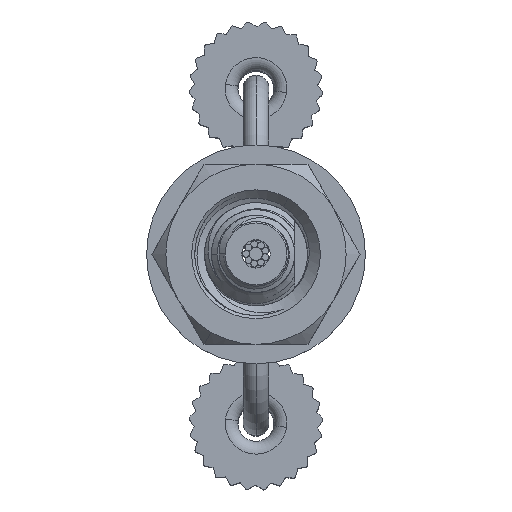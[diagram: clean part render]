
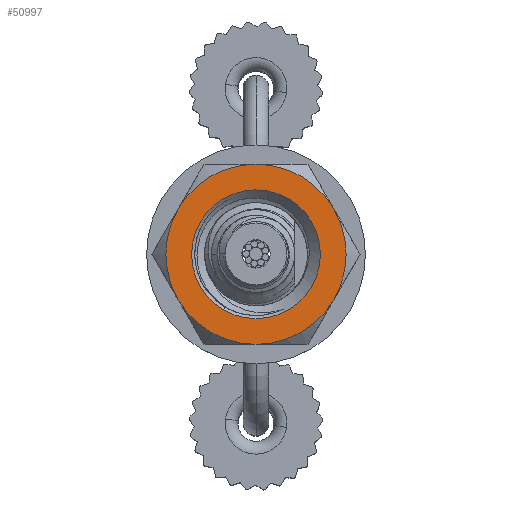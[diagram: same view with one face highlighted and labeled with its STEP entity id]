
A CAD part, top view. The second image highlights one B-rep face of the part: STEP entity #50997.
In plain terms, the highlighted planar face has unit normal (0, 0, 1).
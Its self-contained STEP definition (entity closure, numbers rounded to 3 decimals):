
#372 = DIRECTION ( 'NONE',  ( 0., 0., -1. ) ) ;
#554 = CARTESIAN_POINT ( 'NONE',  ( 0., 0., 2.4 ) ) ;
#575 = CIRCLE ( 'NONE', #17557, 3.5 ) ;
#1279 = DIRECTION ( 'NONE',  ( 1., 0., 0. ) ) ;
#1575 = CIRCLE ( 'NONE', #59531, 2.5 ) ;
#2208 = DIRECTION ( 'NONE',  ( 1., 0., 0. ) ) ;
#2902 = DIRECTION ( 'NONE',  ( 0., 0., 1. ) ) ;
#3381 = CARTESIAN_POINT ( 'NONE',  ( 0., 0., 2.4 ) ) ;
#3403 = CIRCLE ( 'NONE', #48913, 3.5 ) ;
#6492 = ORIENTED_EDGE ( 'NONE', *, *, #28085, .F. ) ;
#6590 = DIRECTION ( 'NONE',  ( 0., 0., -1. ) ) ;
#6638 = CARTESIAN_POINT ( 'NONE',  ( 0., -3.5, 2.4 ) ) ;
#7200 = CARTESIAN_POINT ( 'NONE',  ( 2.5, 0., 2.4 ) ) ;
#8023 = EDGE_LOOP ( 'NONE', ( #47020, #8667 ) ) ;
#8248 = EDGE_CURVE ( 'NONE', #31083, #47899, #65218, .T. ) ;
#8403 = EDGE_CURVE ( 'NONE', #35632, #59249, #1575, .T. ) ;
#8667 = ORIENTED_EDGE ( 'NONE', *, *, #17599, .T. ) ;
#9962 = AXIS2_PLACEMENT_3D ( 'NONE', #47373, #10671, #53399 ) ;
#10013 = DIRECTION ( 'NONE',  ( 0., 0., -1. ) ) ;
#10505 = DIRECTION ( 'NONE',  ( -1., 0., 0. ) ) ;
#10671 = DIRECTION ( 'NONE',  ( 0., 0., -1. ) ) ;
#11140 = AXIS2_PLACEMENT_3D ( 'NONE', #47771, #69427, #30660 ) ;
#11407 = EDGE_CURVE ( 'NONE', #47527, #31083, #575, .T. ) ;
#11778 = AXIS2_PLACEMENT_3D ( 'NONE', #53044, #20655, #22759 ) ;
#13561 = PLANE ( 'NONE',  #24113 ) ;
#17557 = AXIS2_PLACEMENT_3D ( 'NONE', #554, #48965, #10505 ) ;
#17599 = EDGE_CURVE ( 'NONE', #59249, #35632, #49756, .T. ) ;
#18208 = CARTESIAN_POINT ( 'NONE',  ( 0., 0., 2.4 ) ) ;
#18414 = EDGE_CURVE ( 'NONE', #56615, #43755, #62198, .T. ) ;
#19615 = FACE_BOUND ( 'NONE', #8023, .T. ) ;
#20106 = EDGE_CURVE ( 'NONE', #35193, #47527, #50947, .T. ) ;
#20655 = DIRECTION ( 'NONE',  ( 0., 0., -1. ) ) ;
#22759 = DIRECTION ( 'NONE',  ( 1., 0., 0. ) ) ;
#23464 = CIRCLE ( 'NONE', #55295, 3.5 ) ;
#23543 = FACE_OUTER_BOUND ( 'NONE', #49434, .T. ) ;
#24113 = AXIS2_PLACEMENT_3D ( 'NONE', #18208, #2902, #2208 ) ;
#24339 = ORIENTED_EDGE ( 'NONE', *, *, #18414, .F. ) ;
#25060 = CARTESIAN_POINT ( 'NONE',  ( -3.5, 0., 2.4 ) ) ;
#26051 = CIRCLE ( 'NONE', #60117, 3.5 ) ;
#26261 = DIRECTION ( 'NONE',  ( 1., 0., 0. ) ) ;
#27409 = CARTESIAN_POINT ( 'NONE',  ( 0., 0., 2.4 ) ) ;
#27622 = CARTESIAN_POINT ( 'NONE',  ( 0., 0., 2.4 ) ) ;
#28085 = EDGE_CURVE ( 'NONE', #52358, #56615, #3403, .T. ) ;
#28306 = ORIENTED_EDGE ( 'NONE', *, *, #70218, .F. ) ;
#30660 = DIRECTION ( 'NONE',  ( 1., 0., 0. ) ) ;
#31083 = VERTEX_POINT ( 'NONE', #37430 ) ;
#31238 = DIRECTION ( 'NONE',  ( 0., 0., -1. ) ) ;
#31917 = EDGE_CURVE ( 'NONE', #43755, #35193, #23464, .T. ) ;
#33842 = CARTESIAN_POINT ( 'NONE',  ( -3.031, -1.75, 2.4 ) ) ;
#35193 = VERTEX_POINT ( 'NONE', #25060 ) ;
#35632 = VERTEX_POINT ( 'NONE', #7200 ) ;
#35764 = DIRECTION ( 'NONE',  ( 0., 0., -1. ) ) ;
#37430 = CARTESIAN_POINT ( 'NONE',  ( 0., 3.5, 2.4 ) ) ;
#37797 = CARTESIAN_POINT ( 'NONE',  ( 0., 0., 2.4 ) ) ;
#37914 = CARTESIAN_POINT ( 'NONE',  ( 3.031, 1.75, 2.4 ) ) ;
#40298 = ORIENTED_EDGE ( 'NONE', *, *, #8248, .F. ) ;
#41134 = DIRECTION ( 'NONE',  ( 1., 0., 0. ) ) ;
#43130 = ORIENTED_EDGE ( 'NONE', *, *, #11407, .F. ) ;
#43755 = VERTEX_POINT ( 'NONE', #33842 ) ;
#45006 = CARTESIAN_POINT ( 'NONE',  ( 3.031, -1.75, 2.4 ) ) ;
#47020 = ORIENTED_EDGE ( 'NONE', *, *, #8403, .T. ) ;
#47373 = CARTESIAN_POINT ( 'NONE',  ( 0., 0., 2.4 ) ) ;
#47527 = VERTEX_POINT ( 'NONE', #51436 ) ;
#47771 = CARTESIAN_POINT ( 'NONE',  ( 0., 0., 2.4 ) ) ;
#47899 = VERTEX_POINT ( 'NONE', #37914 ) ;
#48759 = ORIENTED_EDGE ( 'NONE', *, *, #31917, .F. ) ;
#48913 = AXIS2_PLACEMENT_3D ( 'NONE', #37797, #10013, #58413 ) ;
#48965 = DIRECTION ( 'NONE',  ( 0., 0., -1. ) ) ;
#49434 = EDGE_LOOP ( 'NONE', ( #6492, #28306, #40298, #43130, #61897, #48759, #24339 ) ) ;
#49756 = CIRCLE ( 'NONE', #11140, 2.5 ) ;
#50947 = CIRCLE ( 'NONE', #57754, 3.5 ) ;
#50997 = ADVANCED_FACE ( 'NONE', ( #23543, #19615 ), #13561, .T. ) ;
#51436 = CARTESIAN_POINT ( 'NONE',  ( -3.031, 1.75, 2.4 ) ) ;
#52358 = VERTEX_POINT ( 'NONE', #45006 ) ;
#53044 = CARTESIAN_POINT ( 'NONE',  ( 0., 0., 2.4 ) ) ;
#53399 = DIRECTION ( 'NONE',  ( 1., 0., 0. ) ) ;
#53774 = CARTESIAN_POINT ( 'NONE',  ( -2.5, 0., 2.4 ) ) ;
#55295 = AXIS2_PLACEMENT_3D ( 'NONE', #64664, #31238, #26261 ) ;
#56615 = VERTEX_POINT ( 'NONE', #6638 ) ;
#57754 = AXIS2_PLACEMENT_3D ( 'NONE', #3381, #35764, #41134 ) ;
#58413 = DIRECTION ( 'NONE',  ( 1., 0., 0. ) ) ;
#59249 = VERTEX_POINT ( 'NONE', #53774 ) ;
#59531 = AXIS2_PLACEMENT_3D ( 'NONE', #27409, #372, #60127 ) ;
#60117 = AXIS2_PLACEMENT_3D ( 'NONE', #27622, #6590, #1279 ) ;
#60127 = DIRECTION ( 'NONE',  ( 1., 0., 0. ) ) ;
#61897 = ORIENTED_EDGE ( 'NONE', *, *, #20106, .F. ) ;
#62198 = CIRCLE ( 'NONE', #9962, 3.5 ) ;
#64664 = CARTESIAN_POINT ( 'NONE',  ( 0., 0., 2.4 ) ) ;
#65218 = CIRCLE ( 'NONE', #11778, 3.5 ) ;
#69427 = DIRECTION ( 'NONE',  ( 0., 0., -1. ) ) ;
#70218 = EDGE_CURVE ( 'NONE', #47899, #52358, #26051, .T. ) ;
